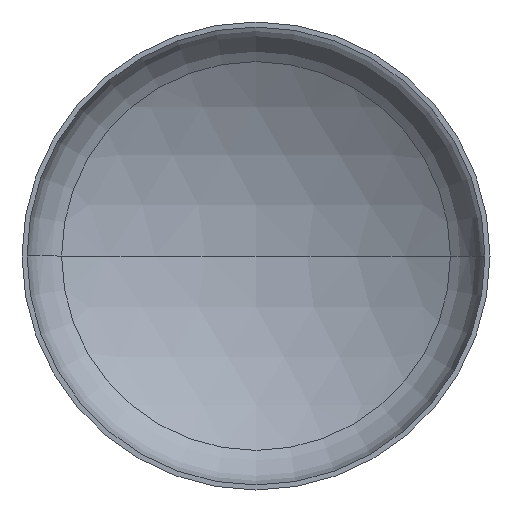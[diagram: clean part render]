
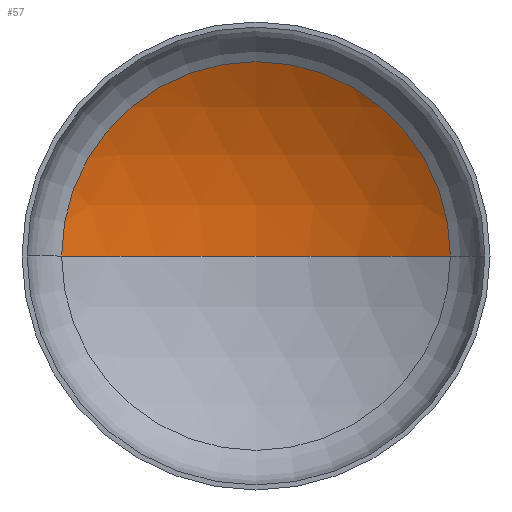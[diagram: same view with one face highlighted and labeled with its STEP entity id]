
A CAD part, front view. The second image highlights one B-rep face of the part: STEP entity #57.
In plain terms, the highlighted spherical face has radius 6400 mm.
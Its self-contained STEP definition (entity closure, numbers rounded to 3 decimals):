
#2 = SPHERICAL_SURFACE ( 'NONE', #159, 6400. ) ;
#18 = VERTEX_POINT ( 'NONE', #129 ) ;
#25 = VERTEX_POINT ( 'NONE', #286 ) ;
#35 = DIRECTION ( 'NONE',  ( 1., 0., 0. ) ) ;
#45 = VERTEX_POINT ( 'NONE', #87 ) ;
#55 = CARTESIAN_POINT ( 'NONE',  ( 0., -4318.715, 0. ) ) ;
#57 = ADVANCED_FACE ( 'NONE', ( #355 ), #2, .F. ) ;
#61 = EDGE_LOOP ( 'NONE', ( #315, #113, #102 ) ) ;
#87 = CARTESIAN_POINT ( 'NONE',  ( 3322.553, 1151.261, 0. ) ) ;
#102 = ORIENTED_EDGE ( 'NONE', *, *, #186, .T. ) ;
#107 = AXIS2_PLACEMENT_3D ( 'NONE', #402, #278, #35 ) ;
#111 = AXIS2_PLACEMENT_3D ( 'NONE', #198, #334, #157 ) ;
#113 = ORIENTED_EDGE ( 'NONE', *, *, #188, .T. ) ;
#115 = AXIS2_PLACEMENT_3D ( 'NONE', #155, #318, #223 ) ;
#129 = CARTESIAN_POINT ( 'NONE',  ( -3322.553, 1151.261, 0. ) ) ;
#155 = CARTESIAN_POINT ( 'NONE',  ( 0., 1151.261, 0. ) ) ;
#157 = DIRECTION ( 'NONE',  ( -1., 0., 0. ) ) ;
#159 = AXIS2_PLACEMENT_3D ( 'NONE', #55, #271, #294 ) ;
#186 = EDGE_CURVE ( 'NONE', #45, #18, #343, .T. ) ;
#188 = EDGE_CURVE ( 'NONE', #25, #45, #226, .T. ) ;
#190 = EDGE_CURVE ( 'NONE', #25, #18, #393, .T. ) ;
#198 = CARTESIAN_POINT ( 'NONE',  ( 0., -4318.715, 0. ) ) ;
#223 = DIRECTION ( 'NONE',  ( 1., 0., 0. ) ) ;
#226 = CIRCLE ( 'NONE', #111, 6400. ) ;
#271 = DIRECTION ( 'NONE',  ( 0., 0., -1. ) ) ;
#278 = DIRECTION ( 'NONE',  ( 0., 0., 1. ) ) ;
#286 = CARTESIAN_POINT ( 'NONE',  ( 0., 2081.285, 0. ) ) ;
#294 = DIRECTION ( 'NONE',  ( -1., 0., 0. ) ) ;
#315 = ORIENTED_EDGE ( 'NONE', *, *, #190, .F. ) ;
#318 = DIRECTION ( 'NONE',  ( 0., -1., 0. ) ) ;
#334 = DIRECTION ( 'NONE',  ( 0., 0., -1. ) ) ;
#343 = CIRCLE ( 'NONE', #115, 3322.553 ) ;
#355 = FACE_OUTER_BOUND ( 'NONE', #61, .T. ) ;
#393 = CIRCLE ( 'NONE', #107, 6400. ) ;
#402 = CARTESIAN_POINT ( 'NONE',  ( 0., -4318.715, 0. ) ) ;
